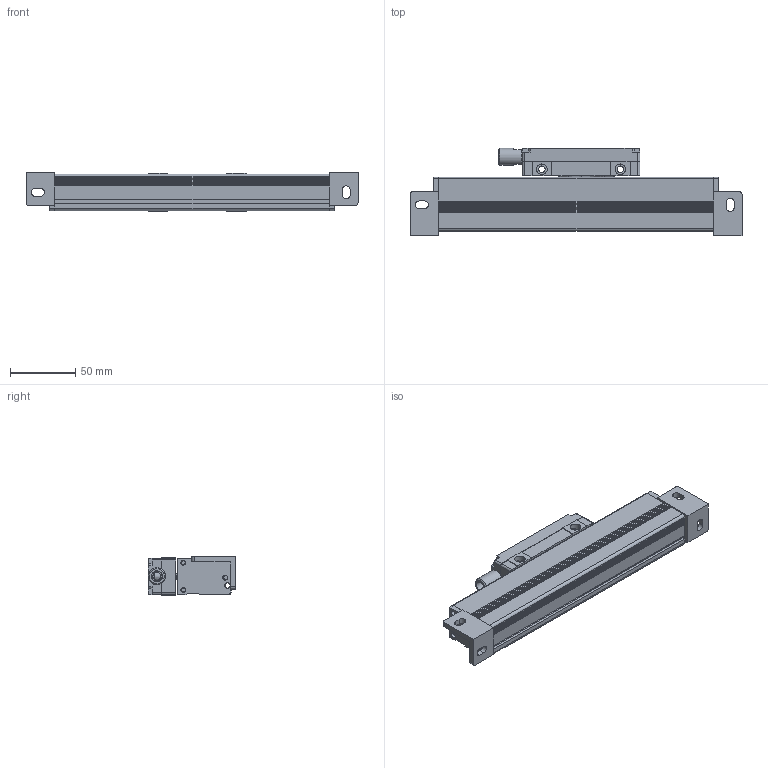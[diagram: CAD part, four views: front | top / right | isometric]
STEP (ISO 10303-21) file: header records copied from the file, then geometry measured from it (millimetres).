
FILE_DESCRIPTION (( 'STEP AP214' ), '1' );
FILE_NAME ('JCXE-L-0100.STEP', '2021-12-16T03:04:23', ( '微软用户' ), ( '微软中国' ), 'SwSTEP 2.0', 'SolidWorks 2010', '' );
FILE_SCHEMA (( 'AUTOMOTIVE_DESIGN' ));
Length unit declared in the file: millimetre
Products named in the file (7): MSBR-5_1-1; PRT0002; MSBR-4_1-1; MSBR-3_1-1; MSBR-2_1-1; 嫖掑喜旯L1200; JCXE-L-0100
Assembly tree (6 placements, depth 2):
  JCXE-L-0100
    MSBR-5_1-1
    PRT0002
    MSBR-2_1-1
    MSBR-4_1-1
    MSBR-3_1-1
    嫖掑喜旯L1200
Bounding box: 254 x 66.8 x 29.5 mm (x, y, z)
Volume: 140762.8 mm3; surface area: 100935.1 mm2
Topology: 6 solids, 6 shells, 547 faces, 1493 edges, 984 vertices
Faces by surface type: plane 331, cylinder 161, cone 27, bspline 25, sphere 3
Entity records: 18988 total; most frequent: CARTESIAN_POINT 4706, ORIENTED_EDGE 2978, DIRECTION 2838, EDGE_CURVE 1489, VECTOR 1018, LINE 1018, VERTEX_POINT 982, AXIS2_PLACEMENT_3D 910
